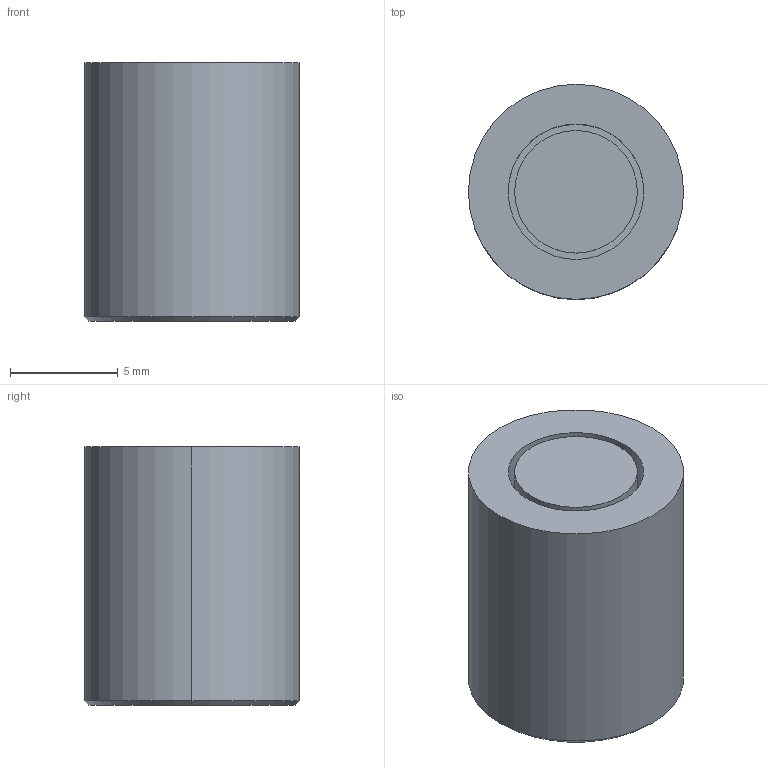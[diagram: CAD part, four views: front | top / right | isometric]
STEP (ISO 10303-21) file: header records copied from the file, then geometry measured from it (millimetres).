
FILE_DESCRIPTION (( 'STEP AP214' ), '1' );
FILE_NAME ('BruyRubio_Blank-10S.STEP', '2019-12-19T17:22:11', ( '' ), ( '' ), 'SwSTEP 2.0', 'SolidWorks 2017', '' );
FILE_SCHEMA (( 'AUTOMOTIVE_DESIGN' ));
Length unit declared in the file: millimetre
Products named in the file (1): BruyRubio_Blank-10S
Bounding box: 10 x 10 x 12 mm (x, y, z)
Volume: 743.9 mm3; surface area: 898.6 mm2
Topology: 2 solids, 2 shells, 18 faces, 34 edges, 22 vertices
Faces by surface type: cylinder 10, plane 6, cone 2
Entity records: 709 total; most frequent: DIRECTION 94, CARTESIAN_POINT 75, ORIENTED_EDGE 68, AXIS2_PLACEMENT_3D 41, EDGE_CURVE 34, VERTEX_POINT 22, UNCERTAINTY_MEASURE_WITH_UNIT 22, EDGE_LOOP 22
